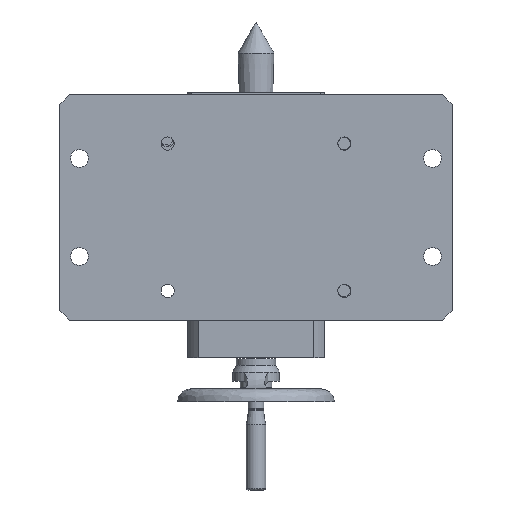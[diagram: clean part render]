
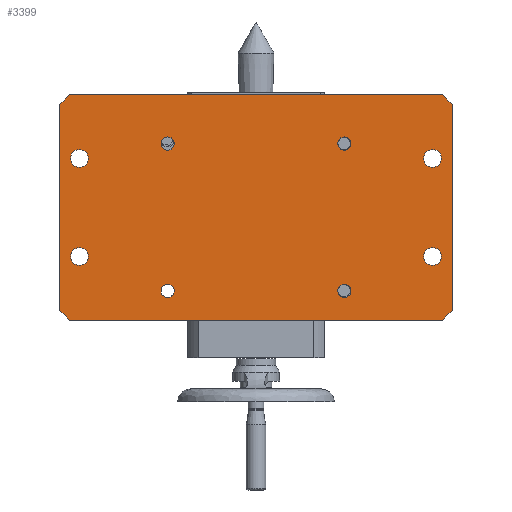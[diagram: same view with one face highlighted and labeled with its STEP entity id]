
A CAD part, front view. The second image highlights one B-rep face of the part: STEP entity #3399.
In plain terms, the highlighted planar face has unit normal (0, -1, 0).
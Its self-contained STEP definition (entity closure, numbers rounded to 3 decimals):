
#7 = CIRCLE ( 'NONE', #194, 3.4 ) ;
#194 = AXIS2_PLACEMENT_3D ( 'NONE', #11748, #3083, #2326 ) ;
#222 = CARTESIAN_POINT ( 'NONE',  ( 90., -65., -72.5 ) ) ;
#256 = DIRECTION ( 'NONE',  ( 0.707, 0., 0.707 ) ) ;
#368 = CARTESIAN_POINT ( 'NONE',  ( -45., -65., -86.6 ) ) ;
#406 = CARTESIAN_POINT ( 'NONE',  ( 100., -65., 5. ) ) ;
#527 = CARTESIAN_POINT ( 'NONE',  ( -100., -65., -105. ) ) ;
#600 = VECTOR ( 'NONE', #256, 1000. ) ;
#655 = CARTESIAN_POINT ( 'NONE',  ( 90., -65., -22.5 ) ) ;
#698 = EDGE_LOOP ( 'NONE', ( #12271 ) ) ;
#887 = VERTEX_POINT ( 'NONE', #5699 ) ;
#972 = CIRCLE ( 'NONE', #8837, 4.5 ) ;
#975 = DIRECTION ( 'NONE',  ( 0., 1., 0. ) ) ;
#988 = CIRCLE ( 'NONE', #12280, 4.5 ) ;
#999 = DIRECTION ( 'NONE',  ( -0.707, 0., -0.707 ) ) ;
#1063 = VERTEX_POINT ( 'NONE', #1823 ) ;
#1260 = CIRCLE ( 'NONE', #12356, 3.4 ) ;
#1329 = DIRECTION ( 'NONE',  ( 0., 1., 0. ) ) ;
#1372 = CARTESIAN_POINT ( 'NONE',  ( 45., -65., -90. ) ) ;
#1461 = FACE_BOUND ( 'NONE', #9259, .T. ) ;
#1463 = EDGE_LOOP ( 'NONE', ( #4955 ) ) ;
#1571 = VECTOR ( 'NONE', #11081, 1000. ) ;
#1695 = DIRECTION ( 'NONE',  ( 0., 0., -1. ) ) ;
#1758 = VERTEX_POINT ( 'NONE', #12242 ) ;
#1823 = CARTESIAN_POINT ( 'NONE',  ( 90., -65., -68. ) ) ;
#1939 = CARTESIAN_POINT ( 'NONE',  ( 100., -65., -105. ) ) ;
#2030 = EDGE_CURVE ( 'NONE', #2245, #2245, #2711, .T. ) ;
#2035 = DIRECTION ( 'NONE',  ( 0., 0., 1. ) ) ;
#2048 = LINE ( 'NONE', #2114, #7127 ) ;
#2114 = CARTESIAN_POINT ( 'NONE',  ( -155., -65., -50. ) ) ;
#2242 = CARTESIAN_POINT ( 'NONE',  ( 90., -65., -18. ) ) ;
#2245 = VERTEX_POINT ( 'NONE', #8200 ) ;
#2326 = DIRECTION ( 'NONE',  ( 0., 0., 1. ) ) ;
#2582 = VERTEX_POINT ( 'NONE', #3585 ) ;
#2711 = CIRCLE ( 'NONE', #5124, 3.4 ) ;
#2852 = CARTESIAN_POINT ( 'NONE',  ( 45., -65., -15. ) ) ;
#3083 = DIRECTION ( 'NONE',  ( 0., 1., 0. ) ) ;
#3130 = CARTESIAN_POINT ( 'NONE',  ( -95., -65., -105. ) ) ;
#3147 = CARTESIAN_POINT ( 'NONE',  ( -45., -65., -15. ) ) ;
#3202 = VECTOR ( 'NONE', #11051, 1000. ) ;
#3315 = CARTESIAN_POINT ( 'NONE',  ( -100., -65., 10. ) ) ;
#3352 = LINE ( 'NONE', #12135, #3202 ) ;
#3399 = ADVANCED_FACE ( 'NONE', ( #10111, #8585, #12435, #7208, #1461, #7568, #9455, #5667, #11045 ), #5298, .T. ) ;
#3585 = CARTESIAN_POINT ( 'NONE',  ( -100., -65., 5. ) ) ;
#3630 = CARTESIAN_POINT ( 'NONE',  ( -90., -65., -68. ) ) ;
#3876 = CARTESIAN_POINT ( 'NONE',  ( 45., -65., -86.6 ) ) ;
#4023 = ORIENTED_EDGE ( 'NONE', *, *, #6619, .T. ) ;
#4110 = CARTESIAN_POINT ( 'NONE',  ( -100., -65., -100. ) ) ;
#4119 = ORIENTED_EDGE ( 'NONE', *, *, #2030, .T. ) ;
#4127 = EDGE_CURVE ( 'NONE', #1758, #1758, #1260, .T. ) ;
#4263 = ORIENTED_EDGE ( 'NONE', *, *, #4127, .T. ) ;
#4291 = LINE ( 'NONE', #7337, #8528 ) ;
#4307 = EDGE_CURVE ( 'NONE', #5662, #887, #4291, .T. ) ;
#4430 = ORIENTED_EDGE ( 'NONE', *, *, #5774, .T. ) ;
#4553 = DIRECTION ( 'NONE',  ( 0., 0., 1. ) ) ;
#4603 = EDGE_CURVE ( 'NONE', #9748, #2582, #2048, .T. ) ;
#4804 = DIRECTION ( 'NONE',  ( 0., 0., 1. ) ) ;
#4812 = CARTESIAN_POINT ( 'NONE',  ( -97.5, -65., -102.5 ) ) ;
#4830 = DIRECTION ( 'NONE',  ( 0., 0., 1. ) ) ;
#4955 = ORIENTED_EDGE ( 'NONE', *, *, #9855, .T. ) ;
#5004 = CIRCLE ( 'NONE', #11468, 4.5 ) ;
#5084 = AXIS2_PLACEMENT_3D ( 'NONE', #11416, #9163, #1695 ) ;
#5124 = AXIS2_PLACEMENT_3D ( 'NONE', #3147, #1329, #5285 ) ;
#5273 = VERTEX_POINT ( 'NONE', #2242 ) ;
#5285 = DIRECTION ( 'NONE',  ( 0., 0., 1. ) ) ;
#5298 = PLANE ( 'NONE',  #5084 ) ;
#5662 = VERTEX_POINT ( 'NONE', #3130 ) ;
#5667 = FACE_BOUND ( 'NONE', #6355, .T. ) ;
#5699 = CARTESIAN_POINT ( 'NONE',  ( 95., -65., -105. ) ) ;
#5705 = DIRECTION ( 'NONE',  ( 0., 0., 1. ) ) ;
#5750 = LINE ( 'NONE', #10848, #600 ) ;
#5774 = EDGE_CURVE ( 'NONE', #6877, #6877, #9022, .T. ) ;
#5820 = EDGE_CURVE ( 'NONE', #9748, #7952, #11204, .T. ) ;
#5837 = LINE ( 'NONE', #4812, #10085 ) ;
#5943 = EDGE_LOOP ( 'NONE', ( #9407 ) ) ;
#6120 = EDGE_CURVE ( 'NONE', #1063, #1063, #972, .T. ) ;
#6129 = VERTEX_POINT ( 'NONE', #4110 ) ;
#6355 = EDGE_LOOP ( 'NONE', ( #4430 ) ) ;
#6497 = EDGE_LOOP ( 'NONE', ( #4263 ) ) ;
#6619 = EDGE_CURVE ( 'NONE', #10730, #10842, #11482, .T. ) ;
#6636 = CARTESIAN_POINT ( 'NONE',  ( 95., -65., 10. ) ) ;
#6789 = ORIENTED_EDGE ( 'NONE', *, *, #6120, .T. ) ;
#6806 = AXIS2_PLACEMENT_3D ( 'NONE', #1372, #11973, #11270 ) ;
#6874 = CIRCLE ( 'NONE', #10682, 4.5 ) ;
#6877 = VERTEX_POINT ( 'NONE', #3876 ) ;
#7009 = ORIENTED_EDGE ( 'NONE', *, *, #4307, .T. ) ;
#7080 = EDGE_CURVE ( 'NONE', #6129, #5662, #5837, .T. ) ;
#7127 = VECTOR ( 'NONE', #999, 1000. ) ;
#7208 = FACE_BOUND ( 'NONE', #1463, .T. ) ;
#7318 = EDGE_CURVE ( 'NONE', #5273, #5273, #6874, .T. ) ;
#7337 = CARTESIAN_POINT ( 'NONE',  ( -100., -65., -105. ) ) ;
#7428 = VERTEX_POINT ( 'NONE', #9205 ) ;
#7568 = FACE_BOUND ( 'NONE', #698, .T. ) ;
#7731 = CARTESIAN_POINT ( 'NONE',  ( -95., -65., 10. ) ) ;
#7753 = EDGE_CURVE ( 'NONE', #6129, #2582, #11176, .T. ) ;
#7835 = EDGE_CURVE ( 'NONE', #10842, #7952, #3352, .T. ) ;
#7952 = VERTEX_POINT ( 'NONE', #6636 ) ;
#8105 = EDGE_CURVE ( 'NONE', #11856, #11856, #7, .T. ) ;
#8109 = DIRECTION ( 'NONE',  ( 0., 1., 0. ) ) ;
#8155 = ORIENTED_EDGE ( 'NONE', *, *, #7753, .F. ) ;
#8171 = CARTESIAN_POINT ( 'NONE',  ( 100., -65., -100. ) ) ;
#8200 = CARTESIAN_POINT ( 'NONE',  ( -45., -65., -11.6 ) ) ;
#8318 = ORIENTED_EDGE ( 'NONE', *, *, #7080, .T. ) ;
#8528 = VECTOR ( 'NONE', #11184, 1000. ) ;
#8585 = FACE_BOUND ( 'NONE', #5943, .T. ) ;
#8633 = VECTOR ( 'NONE', #4830, 1000. ) ;
#8837 = AXIS2_PLACEMENT_3D ( 'NONE', #222, #11650, #2035 ) ;
#9022 = CIRCLE ( 'NONE', #6806, 3.4 ) ;
#9027 = ORIENTED_EDGE ( 'NONE', *, *, #4603, .T. ) ;
#9147 = EDGE_CURVE ( 'NONE', #887, #10730, #5750, .T. ) ;
#9163 = DIRECTION ( 'NONE',  ( 0., -1., 0. ) ) ;
#9205 = CARTESIAN_POINT ( 'NONE',  ( -90., -65., -18. ) ) ;
#9259 = EDGE_LOOP ( 'NONE', ( #4119 ) ) ;
#9261 = VERTEX_POINT ( 'NONE', #3630 ) ;
#9332 = EDGE_LOOP ( 'NONE', ( #4023, #11610, #11019, #9027, #8155, #8318, #7009, #9798 ) ) ;
#9407 = ORIENTED_EDGE ( 'NONE', *, *, #9865, .T. ) ;
#9442 = DIRECTION ( 'NONE',  ( 0.707, 0., -0.707 ) ) ;
#9455 = FACE_OUTER_BOUND ( 'NONE', #9332, .T. ) ;
#9563 = DIRECTION ( 'NONE',  ( 0., 1., 0. ) ) ;
#9621 = DIRECTION ( 'NONE',  ( 0., 1., 0. ) ) ;
#9623 = CARTESIAN_POINT ( 'NONE',  ( -90., -65., -22.5 ) ) ;
#9748 = VERTEX_POINT ( 'NONE', #7731 ) ;
#9793 = ORIENTED_EDGE ( 'NONE', *, *, #7318, .T. ) ;
#9798 = ORIENTED_EDGE ( 'NONE', *, *, #9147, .T. ) ;
#9839 = EDGE_LOOP ( 'NONE', ( #9793 ) ) ;
#9855 = EDGE_CURVE ( 'NONE', #9261, #9261, #988, .T. ) ;
#9865 = EDGE_CURVE ( 'NONE', #7428, #7428, #5004, .T. ) ;
#9987 = DIRECTION ( 'NONE',  ( 0., 0., 1. ) ) ;
#10085 = VECTOR ( 'NONE', #9442, 1000. ) ;
#10111 = FACE_BOUND ( 'NONE', #9839, .T. ) ;
#10559 = CARTESIAN_POINT ( 'NONE',  ( -90., -65., -72.5 ) ) ;
#10682 = AXIS2_PLACEMENT_3D ( 'NONE', #655, #8109, #11958 ) ;
#10730 = VERTEX_POINT ( 'NONE', #8171 ) ;
#10842 = VERTEX_POINT ( 'NONE', #406 ) ;
#10848 = CARTESIAN_POINT ( 'NONE',  ( -2.5, -65., -202.5 ) ) ;
#10853 = VECTOR ( 'NONE', #9987, 1000. ) ;
#11019 = ORIENTED_EDGE ( 'NONE', *, *, #5820, .F. ) ;
#11045 = FACE_BOUND ( 'NONE', #6497, .T. ) ;
#11051 = DIRECTION ( 'NONE',  ( -0.707, 0., 0.707 ) ) ;
#11081 = DIRECTION ( 'NONE',  ( 1., 0., 0. ) ) ;
#11148 = EDGE_LOOP ( 'NONE', ( #6789 ) ) ;
#11176 = LINE ( 'NONE', #527, #10853 ) ;
#11184 = DIRECTION ( 'NONE',  ( 1., 0., 0. ) ) ;
#11204 = LINE ( 'NONE', #3315, #1571 ) ;
#11270 = DIRECTION ( 'NONE',  ( 0., 0., 1. ) ) ;
#11416 = CARTESIAN_POINT ( 'NONE',  ( -100., -65., -105. ) ) ;
#11468 = AXIS2_PLACEMENT_3D ( 'NONE', #9623, #975, #4804 ) ;
#11482 = LINE ( 'NONE', #1939, #8633 ) ;
#11610 = ORIENTED_EDGE ( 'NONE', *, *, #7835, .T. ) ;
#11650 = DIRECTION ( 'NONE',  ( 0., 1., 0. ) ) ;
#11748 = CARTESIAN_POINT ( 'NONE',  ( -45., -65., -90. ) ) ;
#11856 = VERTEX_POINT ( 'NONE', #368 ) ;
#11958 = DIRECTION ( 'NONE',  ( 0., 0., 1. ) ) ;
#11973 = DIRECTION ( 'NONE',  ( 0., 1., 0. ) ) ;
#12135 = CARTESIAN_POINT ( 'NONE',  ( 55., -65., 50. ) ) ;
#12242 = CARTESIAN_POINT ( 'NONE',  ( 45., -65., -11.6 ) ) ;
#12271 = ORIENTED_EDGE ( 'NONE', *, *, #8105, .T. ) ;
#12280 = AXIS2_PLACEMENT_3D ( 'NONE', #10559, #9563, #5705 ) ;
#12356 = AXIS2_PLACEMENT_3D ( 'NONE', #2852, #9621, #4553 ) ;
#12435 = FACE_BOUND ( 'NONE', #11148, .T. ) ;
